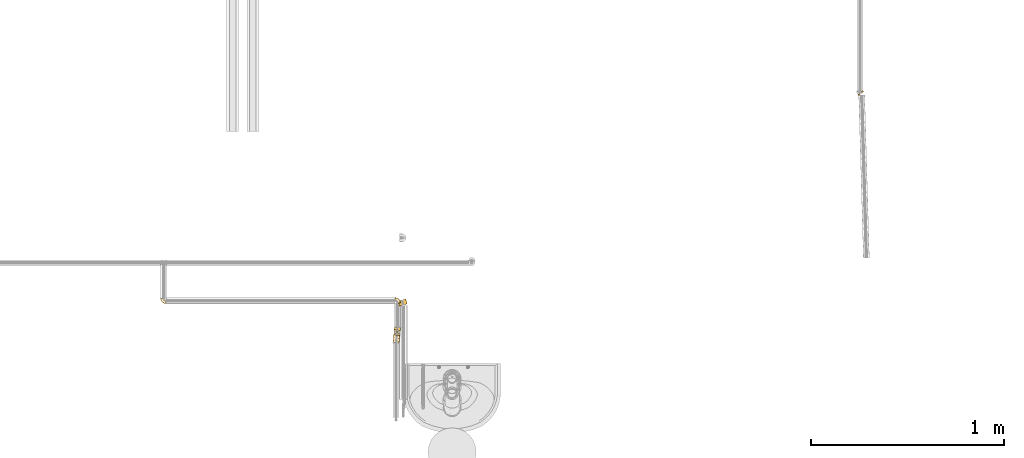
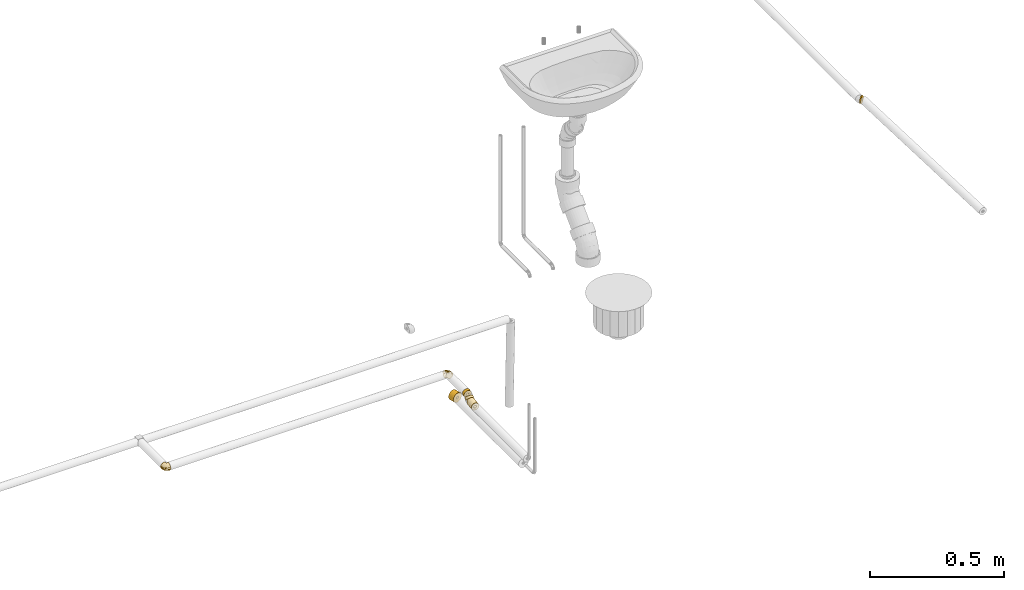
# One storey, part 7 of 108: 7 coverings.
"""IFC2X3 building model written with IfcOpenShell, lengths in millimetres."""

from ifc_helpers import new_model, entity, si_unit, converted_unit, derived_unit, direction, frame, origin_with_axes, origin_2d_with_axis, place, context, subcontext, project, spatial, hollow_circle, extrude, open_shell, surface_model, source, transform, mapped, element, save


model = new_model("IFC2X3")

# Units and contexts
model_context = context("Model", 3, precision=0.01, world=frame((0.0, 4.29681676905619e-09, 0.0)), true_north=direction((4.01073788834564e-13, 1.0)))
plan_context = context("Plan", 3, precision=0.01, world=frame((0.0, 4.29681676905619e-09, 0.0)), true_north=direction((4.01073788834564e-13, 1.0)))
body_context = subcontext(model_context, "Body", "Model", "MODEL_VIEW")
ifc_project = project(units=[converted_unit("PLANEANGLEUNIT", "DEGREE", entity("IfcPositiveLengthMeasure", 0.0174532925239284), si_unit("PLANEANGLEUNIT", "RADIAN"), dimensions=[0, 0, 0, 0, 0, 0, 0]), si_unit("AREAUNIT", "SQUARE_METRE"), si_unit("LENGTHUNIT", "METRE", prefix="MILLI"), si_unit("MASSUNIT", "GRAM", prefix="KILO"), si_unit("POWERUNIT", "WATT"), si_unit("PRESSUREUNIT", "PASCAL", prefix="KILO"), si_unit("FORCEUNIT", "NEWTON", prefix="KILO"), si_unit("ELECTRICVOLTAGEUNIT", "VOLT"), si_unit("ELECTRICCURRENTUNIT", "AMPERE"), si_unit("THERMODYNAMICTEMPERATUREUNIT", "DEGREE_CELSIUS"), si_unit("TIMEUNIT", "SECOND"), si_unit("VOLUMEUNIT", "CUBIC_METRE"), derived_unit("LINEARVELOCITYUNIT", [(si_unit("LENGTHUNIT", "METRE"), 1), (si_unit("TIMEUNIT", "SECOND"), -1)]), derived_unit("VOLUMETRICFLOWRATEUNIT", [(si_unit("VOLUMEUNIT", "CUBIC_METRE"), 1), (si_unit("TIMEUNIT", "SECOND"), -1)]), derived_unit("THERMALTRANSMITTANCEUNIT", [(si_unit("POWERUNIT", "WATT"), 1), (si_unit("THERMODYNAMICTEMPERATUREUNIT", "KELVIN"), -1), (si_unit("AREAUNIT", "SQUARE_METRE"), -1)]), derived_unit("SOUNDPRESSUREUNIT", [(si_unit("PRESSUREUNIT", "PASCAL"), 1)])], contexts=[model_context, plan_context])

# Site, building, storey
site_placement = place(None, frame((0.0, -4.29681676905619e-09, 0.0), z_axis=(0.0, 0.0, 1.0), x_axis=(1.0, 0.0, 0.0)))
site = spatial("IfcSite", under=ifc_project, at=site_placement, CompositionType="ELEMENT")
building_placement = place(site_placement, frame((0.0, 4.29681676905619e-09, 0.0), z_axis=(0.0, 0.0, 1.0), x_axis=(1.0, 0.0, 0.0)))
building = spatial("IfcBuilding", under=site, at=building_placement, Name="mc-building", CompositionType="ELEMENT")
storey_placement = place(building_placement, frame((0.0, 0.0, 210200.0), z_axis=(0.0, 0.0, 1.0), x_axis=(1.0, 0.0, 0.0)))
storey = spatial("IfcBuildingStorey", under=building, at=storey_placement, Name="Nivå F - 0,7 m", CompositionType="ELEMENT", Elevation=210200.0)

# Coverings
shared_shape_1 = source(origin_with_axes(), body_context, "Body", "SurfaceModel", [
    surface_model("IfcShellBasedSurfaceModel", [(-12.0, -13.85641, -8.0), (-5.03247, -13.85987, -6.12293), (-12.0, -15.45481, -4.1411), (-12.0, -4.1411, -15.45481), (-12.0, 0.0, -16.0), (-9.76246, 0.92682, -16.0), (-8.00733, -5.67765, -14.78207), (-12.0, -8.0, -13.85641), (-7.54784, -2.39756, -15.70267), (-3.63176, -4.07524, -14.78207), (-5.63604, 2.63604, -16.0), (-4.79906, -1.31711, -15.689), (-7.75736, 1.75736, -16.0), (-0.69336, -6.92814, -12.45141), (1.52128, -1.94633, -14.17291), (4.61844, -4.34796, -11.31587), (-1.40197, -13.58592, -3.11424), (2.0, -12.24871, 0.0), (-5.0, -14.12436, 0.0), (14.41429, 12.0, -6.94466), (15.59844, 12.0, -3.56211), (14.24408, 5.23741, -5.28665), (-6.34415, -8.99159, -12.69365), (-12.0, -11.31371, -11.31371), (-7.65622, -12.3086, -9.74018), (-2.45593, -10.7747, -9.74018), (4.73569, 7.688, -15.1029), (1.86313, 3.17522, -15.37346), (-1.85364, 7.52492, -16.0), (6.93982, 12.0, -14.41662), (3.5583, 12.0, -15.59931), (-0.92682, 9.76246, -16.0), (8.57767, 1.04585, -11.31574), (10.57428, 6.1836, -11.31587), (11.39922, 1.74937, -8.51502), (6.78659, 3.77012, -13.54906), (8.13639, 8.10223, -13.54906), (13.08049, 7.14532, -8.51502), (-1.99047, -0.19664, -15.54754), (16.0, 12.0, 0.0), (14.5162, 6.46237, 0.0), (11.3314, -2.18346, -4.66674), (12.50736, 12.0, -9.97828), (9.97351, 12.0, -12.51116), (12.24871, -2.0, 0.0), (7.70045, -7.39045, -3.36427), (7.12436, -7.12436, 0.0), (0.0, 12.0, -16.0), (5.19882, -0.42031, -13.08011), (-3.51472, 3.51472, -16.0), (-2.68418, 5.51982, -16.0), (3.59684, -7.87744, -8.94491), (-0.21662, -12.1545, -5.89255), (-6.77177, -15.21504, -3.01853), (8.0134, -4.27963, -8.09946), (3.28113, -11.1475, -2.89122), (-12.0, -16.0, 0.0), (4.19939, -9.54735, -5.68087), (6.78954, 3.76475, 13.54601), (4.73952, 7.68531, 15.10137), (1.86167, 3.16921, 15.37288), (-6.77176, -15.21504, 3.01854), (-5.03467, -13.86047, 6.12293), (-0.21747, -12.15431, 5.89392), (-2.4617, -10.77712, 9.74018), (-7.65963, -12.30921, 9.74018), (5.20201, -0.42642, 13.07577), (1.52419, -1.94826, 14.17113), (3.56211, 12.0, 15.59844), (-0.92682, 9.76246, 16.0), (-1.98921, -0.19819, 15.54705), (-4.92147, -1.01505, 15.75034), (-3.63176, -4.07524, 14.78207), (8.58107, 1.04357, 11.31167), (10.57805, 6.18096, 11.31155), (-12.0, -11.31371, 11.31371), (-6.34594, -8.99207, 12.69365), (-12.0, -8.0, 13.85641), (-12.0, -13.85641, 8.0), (-12.0, -15.45481, 4.1411), (11.40021, 1.74404, 8.51016), (13.083, 7.14222, 8.51016), (-8.00733, -5.67765, 14.78207), (-12.0, -4.1411, 15.45481), (8.1408, 8.09946, 13.54601), (9.97828, 12.0, 12.50736), (-0.69598, -6.93177, 12.44997), (11.33564, -2.17879, 4.66282), (14.24527, 5.23589, 5.28227), (-9.76246, 0.92682, 16.0), (-12.0, 0.0, 16.0), (12.51116, 12.0, 9.97351), (15.59931, 12.0, 3.5583), (14.41662, 12.0, 6.93982), (6.94466, 12.0, 14.41429), (-7.54784, -2.39756, 15.70267), (-7.75736, 1.75736, 16.0), (8.01191, -4.28703, 8.09348), (-1.85364, 7.52492, 16.0), (-2.68418, 5.51982, 16.0), (-3.51472, 3.51472, 16.0), (-5.63604, 2.63604, 16.0), (-1.402, -13.58584, 3.11468), (4.19965, -9.54643, 5.68239), (3.2823, -11.14659, 2.89182), (7.70289, -7.38757, 3.36557), (3.60197, -7.87677, 8.941), (4.61528, -4.35733, 11.31155), (0.0, 12.0, 16.0)], [open_shell([[[0, 1, 2]], [[3, 4, 5]], [[6, 7, 3]], [[6, 8, 9]], [[10, 11, 12]], [[13, 14, 15]], [[16, 17, 18]], [[19, 20, 21]], [[22, 23, 7]], [[23, 24, 0]], [[0, 24, 1]], [[22, 25, 24]], [[26, 27, 28]], [[29, 26, 30]], [[31, 30, 26]], [[32, 33, 34]], [[25, 22, 13]], [[35, 36, 33]], [[21, 37, 19]], [[29, 36, 26]], [[27, 14, 38]], [[20, 39, 40]], [[35, 33, 32]], [[34, 21, 41]], [[42, 19, 37]], [[33, 43, 42]], [[21, 44, 41]], [[37, 33, 42]], [[45, 44, 46]], [[34, 37, 21]], [[31, 47, 30]], [[36, 29, 43]], [[20, 40, 21]], [[27, 26, 35]], [[44, 21, 40]], [[32, 48, 35]], [[27, 49, 50]], [[6, 22, 7]], [[13, 15, 51]], [[25, 51, 52]], [[1, 16, 53]], [[15, 54, 51]], [[54, 34, 41]], [[46, 55, 45]], [[54, 15, 32]], [[16, 55, 17]], [[2, 53, 56]], [[33, 37, 34]], [[33, 36, 43]], [[26, 36, 35]], [[5, 8, 3]], [[22, 6, 9]], [[22, 9, 13]], [[14, 13, 9]], [[9, 8, 11]], [[48, 27, 35]], [[45, 54, 41]], [[55, 46, 17]], [[51, 54, 57]], [[8, 5, 12]], [[38, 10, 49]], [[3, 8, 6]], [[38, 9, 11]], [[12, 11, 8]], [[9, 38, 14]], [[53, 16, 18]], [[52, 16, 1]], [[56, 53, 18]], [[1, 53, 2]], [[54, 32, 34]], [[48, 15, 14]], [[15, 48, 32]], [[27, 48, 14]], [[52, 51, 57]], [[13, 51, 25]], [[22, 24, 23]], [[1, 24, 25]], [[25, 52, 1]], [[55, 52, 57]], [[52, 55, 16]], [[55, 57, 45]], [[54, 45, 57]], [[44, 45, 41]], [[26, 28, 31]], [[49, 27, 38]], [[50, 28, 27]], [[10, 38, 11]], [[58, 59, 60]], [[56, 18, 61]], [[62, 63, 64]], [[62, 64, 65]], [[66, 60, 67]], [[68, 69, 59]], [[70, 71, 72]], [[73, 74, 58]], [[75, 76, 77]], [[78, 79, 62]], [[74, 80, 81]], [[82, 83, 77]], [[84, 74, 85]], [[64, 86, 76]], [[87, 44, 88]], [[83, 89, 90]], [[74, 91, 85]], [[40, 88, 44]], [[75, 78, 65]], [[88, 92, 93]], [[40, 39, 92]], [[59, 94, 68]], [[94, 84, 85]], [[95, 96, 89]], [[73, 80, 74]], [[97, 87, 80]], [[75, 65, 76]], [[67, 72, 86]], [[81, 88, 93]], [[84, 59, 58]], [[60, 59, 98]], [[93, 91, 81]], [[88, 80, 87]], [[60, 98, 99]], [[40, 92, 88]], [[100, 60, 99]], [[70, 101, 71]], [[18, 17, 102]], [[102, 63, 62]], [[103, 104, 105]], [[106, 103, 97]], [[64, 106, 86]], [[82, 76, 72]], [[80, 73, 97]], [[46, 105, 104]], [[18, 102, 61]], [[74, 81, 91]], [[88, 81, 80]], [[59, 84, 94]], [[74, 84, 58]], [[76, 82, 77]], [[95, 83, 82]], [[67, 86, 107]], [[87, 105, 44]], [[72, 76, 86]], [[107, 73, 66]], [[60, 100, 70]], [[106, 97, 107]], [[105, 97, 103]], [[70, 72, 67]], [[83, 95, 89]], [[72, 95, 82]], [[101, 70, 100]], [[95, 71, 96]], [[60, 70, 67]], [[104, 102, 17]], [[61, 62, 79]], [[62, 61, 102]], [[56, 61, 79]], [[66, 73, 58]], [[97, 73, 107]], [[60, 66, 58]], [[107, 66, 67]], [[86, 106, 107]], [[63, 106, 64]], [[62, 65, 78]], [[76, 65, 64]], [[46, 104, 17]], [[63, 104, 103]], [[44, 105, 46]], [[97, 105, 87]], [[104, 63, 102]], [[63, 103, 106]], [[69, 68, 108]], [[69, 98, 59]], [[96, 71, 101]], [[72, 71, 95]]])]),
])
for number, where, z_axis, x_axis in (
    (1, (337914.44674, 461107.00941, -735.809999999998), (0.0, 0.0, 1.0), (0.0, -1.0, 0.0)),
    (2, (339126.94674, 461107.00941, -735.809999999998), (0.0, 0.0, 1.0), (0.0, 1.0, 0.0)),
):
    element("IfcCovering", number, at=place(storey_placement, frame(where, z_axis=z_axis, x_axis=x_axis)), inside=storey, Name="BI10T - Cellegummi 18-32 mm kalde rør", PredefinedType="INSULATION", context=body_context, shape_type="MappedRepresentation", body=[
        mapped(shared_shape_1, transform((0.0, 0.0, 0.0), scale=1.0)),
    ])
shared_shape_2 = source(origin_with_axes(), body_context, "Body", "SweptSolid", [
    extrude(hollow_circle(Radius=16.0, WallThickness=10.0, at=origin_2d_with_axis()), frame((0.0, 0.0, 0.0), z_axis=(1.0, 0.0, 0.0), x_axis=(0.0, 1.0, 0.0)), (0.0, 0.0, 1.0), 40.4),
])
covering_1_placement = place(storey_placement, frame((339123.27455, 460929.58947, -750.773129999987), z_axis=(0.0, 0.0, 1.0), x_axis=(-0.0933410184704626, -0.995634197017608, 0.0)))
element("IfcCovering", 3, at=covering_1_placement, inside=storey, Name="BI10T - Cellegummi 18-32 mm kalde rør", PredefinedType="INSULATION", context=body_context, shape_type="MappedRepresentation", body=[
    mapped(shared_shape_2, transform((0.0, 0.0, 0.0), scale=1.0)),
])
shared_shape_3 = source(origin_with_axes(), body_context, "Body", "SweptSolid", [
    extrude(hollow_circle(Radius=16.0, WallThickness=10.0, at=origin_2d_with_axis()), frame((0.0, 0.0, 0.0), z_axis=(1.0, 0.0, 0.0), x_axis=(0.0, 1.0, 0.0)), (0.0, 0.0, 1.0), 13.9),
])
covering_2_placement = place(storey_placement, frame((339126.89435, 460968.2006, -735.809999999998), z_axis=(0.0, 0.0, 1.0), x_axis=(-0.0933410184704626, -0.995634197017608, 0.0)))
element("IfcCovering", 4, at=covering_2_placement, inside=storey, Name="BI10T - Cellegummi 18-32 mm kalde rør", PredefinedType="INSULATION", context=body_context, shape_type="MappedRepresentation", body=[
    mapped(shared_shape_3, transform((0.0, 0.0, 0.0), scale=1.0)),
])
shared_shape_4 = source(origin_with_axes(), body_context, "Body", "SweptSolid", [
    extrude(hollow_circle(Radius=16.0, WallThickness=10.0, at=origin_2d_with_axis()), frame((0.0, 0.0, 0.0), z_axis=(1.0, 0.0, 0.0), x_axis=(0.0, 1.0, 0.0)), (0.0, 0.0, 1.0), 11.2),
])
covering_3_placement = place(storey_placement, frame((339124.80711, 460945.93676, -739.324720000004), z_axis=(0.0660019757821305, 0.704019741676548, -0.707106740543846), x_axis=(-0.0660019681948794, -0.704019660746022, -0.707106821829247)))
element("IfcCovering", 5, at=covering_3_placement, inside=storey, Name="BI10T - Cellegummi 18-32 mm kalde rør", PredefinedType="INSULATION", context=body_context, shape_type="MappedRepresentation", body=[
    mapped(shared_shape_4, transform((0.0, 0.0, 0.0), scale=1.0)),
])
shared_shape_5 = source(origin_with_axes(), body_context, "Body", "SweptSolid", [
    extrude(hollow_circle(Radius=21.0, WallThickness=15.0, at=origin_2d_with_axis()), frame((0.0, 0.0, 0.0), z_axis=(1.0, 0.0, 0.0), x_axis=(0.0, 1.0, 0.0)), (0.0, 0.0, 1.0), 26.5),
])
covering_4_placement = place(storey_placement, frame((339156.56876, 461084.72955, -840.773129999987), z_axis=(0.0, 0.0, 1.0), x_axis=(-0.249006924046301, 0.96850170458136, 0.0)))
element("IfcCovering", 6, at=covering_4_placement, inside=storey, Name="BI10T - Cellegummi 18-32 mm kalde rør", PredefinedType="INSULATION", context=body_context, shape_type="MappedRepresentation", body=[
    mapped(shared_shape_5, transform((0.0, 0.0, 0.0), scale=1.0)),
])
shared_shape_6 = source(origin_with_axes(), body_context, "Body", "SweptSolid", [
    extrude(hollow_circle(Radius=16.0, WallThickness=10.0, at=origin_2d_with_axis()), frame((0.0, 0.0, 0.0), z_axis=(1.0, 0.0, 0.0), x_axis=(0.0, 1.0, 0.0)), (0.0, 0.0, 1.0), 4.8),
])
covering_5_placement = place(storey_placement, frame((341530.63464, 462181.75147, -981.678400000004), z_axis=(0.0, 0.0, 1.0), x_axis=(-0.66162176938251, 0.749837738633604, 0.0)))
element("IfcCovering", 7, at=covering_5_placement, inside=storey, Name="BI10T - Cellegummi 18-32 mm kalde rør", PredefinedType="INSULATION", context=body_context, shape_type="MappedRepresentation", body=[
    mapped(shared_shape_6, transform((0.0, 0.0, 0.0), scale=1.0)),
])

save(model, "model.ifc")
